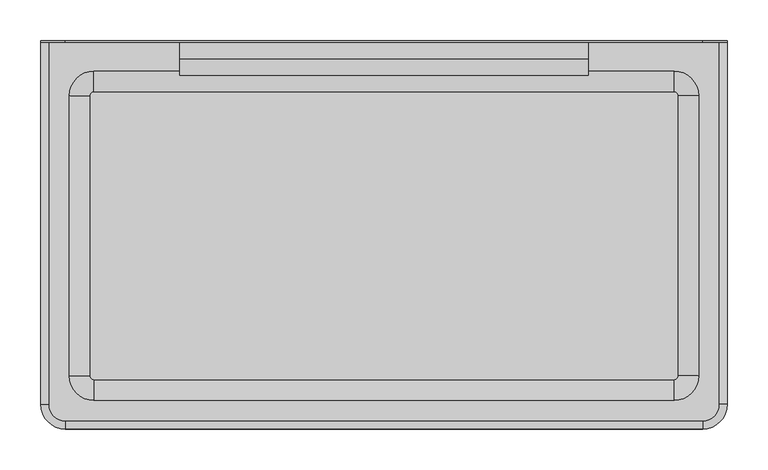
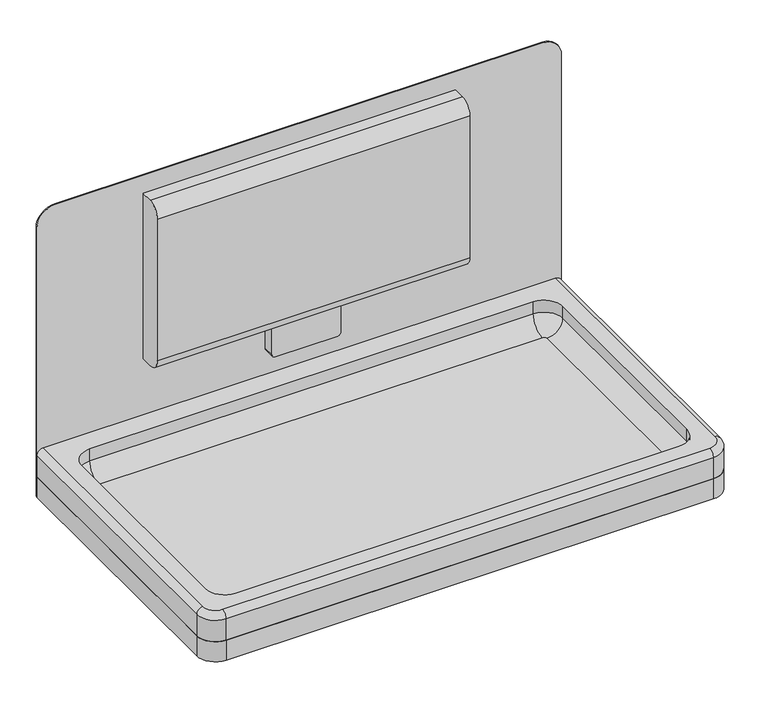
"""IFC4 building model written with IfcOpenShell, lengths in millimetres: proxy geometry, Baby Change Station_Metlam_Horizontal_Recessed : 940w x 495d x 585h (ML_8200REC)."""

import ifcopenshell
import ifcopenshell.guid

model = None  # the IFC model being written
_history = None  # IfcOwnerHistory: only IFC2X3 demands one
_inside = {}  # id of a spatial element -> (the spatial element, [elements in it])
_under = {}  # id of a project, library or spatial element -> (it, [spatial elements below it])
_declared = {}  # id of a project -> (the project, [libraries it declares])
_typed = {}  # id of a type object -> (the type object, [elements of that type])
_made_of = {}  # id of a material, layer set ... -> (it, [elements and type objects made of it])


def new_model(schema):
    """Start an empty IFC model of exactly this schema.

    Asked for "IFC4X3", IfcOpenShell would pick the latest addendum, in which some entities
    have other attributes; the version numbers below select the first issue.
    IFC2X3 requires an IfcOwnerHistory on every rooted entity: one is made here for all.
    """
    global model, _history
    if schema == "IFC4X3":
        model = ifcopenshell.file(schema_version=(4, 3, 0, 0))
    else:
        model = ifcopenshell.file(schema=schema)
    _inside.clear()
    _under.clear()
    _declared.clear()
    _typed.clear()
    _made_of.clear()
    _history = None
    if model.schema == "IFC2X3":
        org = make("IfcOrganization", Name="unknown")
        user = make(
            "IfcPersonAndOrganization",
            ThePerson=make("IfcPerson", FamilyName="unknown"),
            TheOrganization=org,
        )
        app = make(
            "IfcApplication",
            ApplicationDeveloper=org,
            Version="unknown",
            ApplicationFullName="unknown",
            ApplicationIdentifier="unknown",
        )
        _history = make(
            "IfcOwnerHistory",
            OwningUser=user,
            OwningApplication=app,
            ChangeAction="ADDED",
            CreationDate=0,
        )
    return model


def make(cls, **values):
    """One entity of the class cls with the attributes given. An attribute that is None is left unset."""
    return model.create_entity(
        cls, **{name: value for name, value in values.items() if value is not None}
    )


def rooted(cls, **values):
    """An entity with a GlobalId (a new one), such as an element, a storey or a relation."""
    return make(cls, GlobalId=ifcopenshell.guid.new(), OwnerHistory=_history, **values)


def si_unit(unit_type, name, prefix=None):
    """IfcSIUnit, for example si_unit("LENGTHUNIT", "METRE", prefix="MILLI")."""
    return make("IfcSIUnit", UnitType=unit_type, Prefix=prefix, Name=name)


def assignment(units):
    """IfcUnitAssignment: the units of a project."""
    return None if units is None else make("IfcUnitAssignment", Units=units)


def point(xyz):
    """IfcCartesianPoint."""
    return None if xyz is None else make("IfcCartesianPoint", Coordinates=xyz)


def direction(xyz):
    """IfcDirection."""
    return None if xyz is None else make("IfcDirection", DirectionRatios=xyz)


def frame(location, z_axis=None, x_axis=None):
    """IfcAxis2Placement3D, a coordinate frame: its origin and axes. An axis left out is left unset."""
    return make(
        "IfcAxis2Placement3D",
        Location=point(location),
        Axis=direction(z_axis),
        RefDirection=direction(x_axis),
    )


def frame_2d(location, x_axis=None):
    """IfcAxis2Placement2D, a coordinate frame in the plane: its origin and x axis."""
    return make(
        "IfcAxis2Placement2D", Location=point(location), RefDirection=direction(x_axis)
    )


def origin():
    """The frame at (0, 0, 0) with its axes left unset."""
    return frame((0.0, 0.0, 0.0))


def place(relative_to, where):
    """IfcLocalPlacement: puts the frame where relative to a parent placement (None: the world)."""
    return make(
        "IfcLocalPlacement", PlacementRelTo=relative_to, RelativePlacement=where
    )


def context(
    kind, dimensions, precision=None, world=None, true_north=None, identifier=None
):
    """IfcGeometricRepresentationContext, for example the 3D "Model" context."""
    return make(
        "IfcGeometricRepresentationContext",
        ContextIdentifier=identifier,
        ContextType=kind,
        CoordinateSpaceDimension=dimensions,
        Precision=precision,
        WorldCoordinateSystem=world,
        TrueNorth=true_north,
    )


def project(units=None, contexts=None):
    """IfcProject with its units and contexts."""
    return rooted(
        "IfcProject",
        Name="project",
        RepresentationContexts=contexts,
        UnitsInContext=assignment(units),
    )


def spatial(cls, under=None, at=None, **own):
    """A site, building, storey or space (cls), placed at a placement, below another one or the project."""
    s = rooted(cls, ObjectPlacement=at, **own)
    if under is not None:
        _under.setdefault(under.id(), (under, []))[1].append(s)
    return s


def polyline(points):
    """IfcPolyline through the points."""
    return make("IfcPolyline", Points=[point(p) for p in points])


def circle_curve(where, radius):
    """IfcCircle in the frame where."""
    return make("IfcCircle", Position=where, Radius=radius)


def ellipse_curve(where, semi_axis1, semi_axis2):
    """IfcEllipse in the frame where."""
    return make(
        "IfcEllipse", Position=where, SemiAxis1=semi_axis1, SemiAxis2=semi_axis2
    )


def trimmed(basis, trim1, trim2, sense, master):
    """IfcTrimmedCurve: the piece of a basis curve between two trims."""
    return make(
        "IfcTrimmedCurve",
        BasisCurve=basis,
        Trim1=trim1,
        Trim2=trim2,
        SenseAgreement=sense,
        MasterRepresentation=master,
    )


def segment(curve, same_sense, transition):
    """IfcCompositeCurveSegment."""
    return make(
        "IfcCompositeCurveSegment",
        Transition=transition,
        SameSense=same_sense,
        ParentCurve=curve,
    )


def composite_curve(segments, self_intersect=None):
    """IfcCompositeCurve: segments joined end to end."""
    return make("IfcCompositeCurve", Segments=segments, SelfIntersect=self_intersect)


def outline(outer, holes=None, kind="AREA"):
    """IfcArbitraryClosedProfileDef: a profile drawn as a closed curve; with holes, ...WithVoids."""
    if holes is None:
        return make("IfcArbitraryClosedProfileDef", ProfileType=kind, OuterCurve=outer)
    return make(
        "IfcArbitraryProfileDefWithVoids",
        ProfileType=kind,
        OuterCurve=outer,
        InnerCurves=holes,
    )


def extrude(swept, where, along, depth):
    """IfcExtrudedAreaSolid: the profile swept, set in the frame where, extruded along a direction by depth."""
    return make(
        "IfcExtrudedAreaSolid",
        SweptArea=swept,
        Position=where,
        ExtrudedDirection=direction(along),
        Depth=depth,
    )


def shape(context_of_items, identifier, shape_type, items):
    """IfcShapeRepresentation: the items that make up one representation, for example the "Body"."""
    return make(
        "IfcShapeRepresentation",
        ContextOfItems=context_of_items,
        RepresentationIdentifier=identifier,
        RepresentationType=shape_type,
        Items=items,
    )


def source(mapping_origin, context_of_items, identifier, shape_type, items):
    """IfcRepresentationMap: a shape defined once, which mapped items show again and again."""
    return make(
        "IfcRepresentationMap",
        MappingOrigin=mapping_origin,
        MappedRepresentation=shape(context_of_items, identifier, shape_type, items),
    )


def transform(
    local_origin,
    x_axis=None,
    y_axis=None,
    z_axis=None,
    scale=None,
    scale2=None,
    scale3=None,
    uniform=True,
):
    """IfcCartesianTransformationOperator3D, or its non-uniform kind. x_axis, y_axis, z_axis: its Axis1, 2, 3."""
    if uniform:
        return make(
            "IfcCartesianTransformationOperator3D",
            Axis1=direction(x_axis),
            Axis2=direction(y_axis),
            LocalOrigin=point(local_origin),
            Scale=scale,
            Axis3=direction(z_axis),
        )
    return make(
        "IfcCartesianTransformationOperator3DnonUniform",
        Axis1=direction(x_axis),
        Axis2=direction(y_axis),
        LocalOrigin=point(local_origin),
        Scale=scale,
        Axis3=direction(z_axis),
        Scale2=scale2,
        Scale3=scale3,
    )


def mapped(mapping_source, mapping_target):
    """IfcMappedItem: shows the shape of a source again, moved by a transform."""
    return make(
        "IfcMappedItem", MappingSource=mapping_source, MappingTarget=mapping_target
    )


def made_of(thing, what):
    """Note that an element or type object is made of a material, layer set ...; save() writes the relation."""
    if what is not None:
        _made_of.setdefault(what.id(), (what, []))[1].append(thing)
    return thing


def element(
    cls,
    number,
    at=None,
    inside=None,
    cuts=None,
    type_object=None,
    material=None,
    context=None,
    identifier="Body",
    shape_type=None,
    held_by="IfcProductDefinitionShape",
    body=None,
    shapes=None,
    **own,
):
    """One element of the class cls, such as IfcWall. Its Tag is "e" and its number.

    at: its placement. inside: the storey or other place that contains it. cuts: it is an
    opening in that element (IfcRelVoidsElement). A single representation is given by context,
    identifier, shape_type and body (its items); several are given by shapes. held_by: the class
    of the entity that holds the representations. save() writes the other relations.
    """
    e = rooted(cls, Tag="e%d" % number, ObjectPlacement=at, **own)
    if body is not None:
        shapes = [shape(context, identifier, shape_type, body)]
    if shapes is not None:
        e.Representation = make(held_by, Representations=shapes)
    if inside is not None:
        _inside.setdefault(inside.id(), (inside, []))[1].append(e)
    if cuts is not None:
        rooted(
            "IfcRelVoidsElement", RelatingBuildingElement=cuts, RelatedOpeningElement=e
        )
    if type_object is not None:
        _typed.setdefault(type_object.id(), (type_object, []))[1].append(e)
    return made_of(e, material)


def aggregate(whole, parts):
    """IfcRelAggregates: a whole, such as a stair, and the parts it consists of."""
    return rooted("IfcRelAggregates", RelatingObject=whole, RelatedObjects=parts)


def save(model, path):
    """Write the relations noted so far, then the file.

    IfcRelAggregates (storeys below a building ...), IfcRelContainedInSpatialStructure (elements
    in a storey), IfcRelDefinesByType, IfcRelAssociatesMaterial and IfcRelDeclares: one each for
    every whole, place, type object, material and project.
    """
    for whole, parts in _under.values():
        aggregate(whole, parts)
    for where, things in _inside.values():
        rooted(
            "IfcRelContainedInSpatialStructure",
            RelatedElements=things,
            RelatingStructure=where,
        )
    for kind, things in _typed.values():
        rooted("IfcRelDefinesByType", RelatedObjects=things, RelatingType=kind)
    for what, things in _made_of.values():
        rooted("IfcRelAssociatesMaterial", RelatedObjects=things, RelatingMaterial=what)
    for by, libraries in _declared.values():
        rooted("IfcRelDeclares", RelatingContext=by, RelatedDefinitions=libraries)
    model.write(path)


def plane_surface(at):
    """IfcPlane: the flat surface through the origin of the frame at, square to its z axis."""
    return make("IfcPlane", Position=at)


def cylinder_surface(at, radius):
    """IfcCylindricalSurface: all points at the distance radius from the z axis of the frame at."""
    return make("IfcCylindricalSurface", Position=at, Radius=radius)


def revolved_surface(curve, axis_point, axis_direction):
    """IfcSurfaceOfRevolution: the curve turned about the line through axis_point along axis_direction."""
    return make(
        "IfcSurfaceOfRevolution",
        SweptCurve=make("IfcArbitraryOpenProfileDef", ProfileType="CURVE", Curve=curve),
        AxisPosition=make("IfcAxis1Placement", Location=point(axis_point), Axis=direction(axis_direction)),
    )


def advanced_brep(points, edges, surfaces, faces):
    """IfcAdvancedBrep: a solid bounded by faces that lie on surfaces and meet in shared edges.

    An edge is (start, end): straight between two places in points (the first is 0);
    or (start, end, curve); or (start, end, curve, False) where it runs against its curve.
    A face is (place in surfaces, loops), or (place, loops, False) where it looks against
    its surface's normal. A loop lists edges by number (the first is 1), with a minus sign
    where the edge is run from its end to its start. The first loop is the outer one.
    """
    corners = [point(p) for p in points]
    vertices = [make("IfcVertexPoint", VertexGeometry=c) for c in corners]
    made = []
    for start, end, *more in edges:
        made.append(
            make(
                "IfcEdgeCurve",
                EdgeStart=vertices[start],
                EdgeEnd=vertices[end],
                EdgeGeometry=more[0] if more else make("IfcPolyline", Points=[corners[start], corners[end]]),
                SameSense=more[1] if len(more) > 1 else True,
            )
        )
    hull = []
    for where, loops, *sense in faces:
        bounds = []
        for j, loop in enumerate(loops):
            ring = [make("IfcOrientedEdge", EdgeElement=made[abs(k) - 1], Orientation=k > 0) for k in loop]
            bounds.append(
                make(
                    "IfcFaceOuterBound" if j == 0 else "IfcFaceBound",
                    Bound=make("IfcEdgeLoop", EdgeList=ring),
                    Orientation=True,
                )
            )
        hull.append(make("IfcAdvancedFace", Bounds=bounds, FaceSurface=surfaces[where], SameSense=sense[0] if sense else True))
    return make("IfcAdvancedBrep", Outer=make("IfcClosedShell", CfsFaces=hull))


def specialty_equipment_1827895f(model_context):
    return source(origin(), model_context, "Body", "SolidModel", [
        extrude(outline(composite_curve([segment(polyline([(1175.0, -420.0), (800.0, -420.0), (790.0, -420.0), (720.0, -420.0), (720.0, 420.0), (790.0, 420.0), (800.0, 420.0), (1175.0, 420.0)]), True, "CONTINUOUS"), segment(trimmed(circle_curve(frame_2d((1175.0, 390.0)), 30.0), [point((1175.0, 420.0))], [point((1205.0, 390.0))], False, "CARTESIAN"), True, "CONTINUOUS"), segment(polyline([(1205.0, 390.0), (1205.0, -390.0)]), True, "CONTINUOUS"), segment(trimmed(circle_curve(frame_2d((1175.0, -390.0)), 30.0), [point((1205.0, -390.0))], [point((1175.0, -420.0))], False, "CARTESIAN"), True, "CONTINUOUS")], self_intersect=False)), frame((0.0, 70.0, 0.0), z_axis=(0.0, 1.0, 0.0), x_axis=(0.0, 0.0, 1.0)), (0.0, 0.0, 1.0), 2.0),
        extrude(outline(composite_curve([segment(polyline([(420.0, 70.0), (420.0, -373.0)]), True, "CONTINUOUS"), segment(trimmed(circle_curve(frame_2d((390.0, -373.0)), 30.0), [point((420.0, -373.0))], [point((390.0, -403.0))], False, "CARTESIAN"), True, "CONTINUOUS"), segment(polyline([(390.0, -403.0), (-390.0, -403.0)]), True, "CONTINUOUS"), segment(trimmed(circle_curve(frame_2d((-390.0, -373.0)), 30.0), [point((-390.0, -403.0))], [point((-420.0, -373.0))], False, "CARTESIAN"), True, "CONTINUOUS"), segment(polyline([(-420.0, -373.0), (-420.0, 70.0), (420.0, 70.0)]), True, "CONTINUOUS")], self_intersect=False)), frame((0.0, 0.0, 720.0), z_axis=(0.0, 0.0, 1.0), x_axis=(1.0, 0.0, 0.0)), (0.0, 0.0, 1.0), 34.0),
        advanced_brep(
        [(250.0, 70.0, 1175.0), (250.0, 50.0, 1175.0), (250.0, 30.0, 1155.0), (250.0, 30.0, 915.0), (250.0, 50.0, 895.0), (250.0, 70.0, 895.0), (-250.0, 70.0, 1175.0), (-250.0, 70.0, 895.0), (-250.0, 50.0, 895.0), (-250.0, 30.0, 915.0), (-250.0, 30.0, 1155.0), (-250.0, 50.0, 1175.0), (-60.0, 50.0, 895.0), (60.0, 50.0, 895.0), (60.0, 70.0, 895.0), (-60.0, 70.0, 895.0), (55.0, 70.0, 890.0), (55.0, 70.0, 845.0), (50.0, 70.0, 840.0), (-50.0, 70.0, 840.0), (-55.0, 70.0, 845.0), (-55.0, 70.0, 890.0), (-55.0, 50.0, 890.0), (-55.0, 50.0, 845.0), (-50.0, 50.0, 840.0), (50.0, 50.0, 840.0), (55.0, 50.0, 845.0), (55.0, 50.0, 890.0)],
        [
            (0, 1),
            (1, 2, circle_curve(frame((250.0, 50.0, 1155.0), z_axis=(1.0, 0.0, 0.0), x_axis=(0.0, 1.0, 0.0)), 20.0)),
            (2, 3),
            (3, 4, circle_curve(frame((250.0, 50.0, 915.0), z_axis=(1.0, 0.0, 0.0), x_axis=(0.0, 1.0, 0.0)), 20.0)),
            (4, 5),
            (5, 0),
            (6, 7),
            (7, 8),
            (8, 9, circle_curve(frame((-250.0, 50.0, 915.0), z_axis=(-1.0, 0.0, 0.0), x_axis=(0.0, 1.0, 0.0)), 20.0)),
            (9, 10),
            (10, 11, circle_curve(frame((-250.0, 50.0, 1155.0), z_axis=(-1.0, 0.0, 0.0), x_axis=(0.0, 1.0, 0.0)), 20.0)),
            (11, 6),
            (0, 6),
            (11, 1),
            (10, 2),
            (9, 3),
            (8, 12),
            (12, 13),
            (13, 4),
            (13, 14),
            (14, 5),
            (7, 15),
            (15, 12),
            (14, 16, circle_curve(frame((60.0, 70.0, 890.0), z_axis=(0.0, -1.0, 0.0), x_axis=(1.0, 0.0, 0.0)), 5.0)),
            (16, 17),
            (17, 18, circle_curve(frame((50.0, 70.0, 845.0), z_axis=(0.0, 1.0, 0.0), x_axis=(1.0, 0.0, 0.0)), 5.0)),
            (18, 19),
            (19, 20, circle_curve(frame((-50.0, 70.0, 845.0), z_axis=(0.0, 1.0, 0.0), x_axis=(1.0, 0.0, 0.0)), 5.0)),
            (20, 21),
            (21, 15, circle_curve(frame((-60.0, 70.0, 890.0), z_axis=(0.0, -1.0, 0.0), x_axis=(1.0, 0.0, 0.0)), 5.0)),
            (12, 22, circle_curve(frame((-60.0, 50.0, 890.0), z_axis=(0.0, 1.0, 0.0), x_axis=(1.0, 0.0, 0.0)), 5.0)),
            (22, 23),
            (23, 24, circle_curve(frame((-50.0, 50.0, 845.0), z_axis=(0.0, -1.0, 0.0), x_axis=(1.0, 0.0, 0.0)), 5.0)),
            (24, 25),
            (25, 26, circle_curve(frame((50.0, 50.0, 845.0), z_axis=(0.0, -1.0, 0.0), x_axis=(1.0, 0.0, 0.0)), 5.0)),
            (26, 27),
            (27, 13, circle_curve(frame((60.0, 50.0, 890.0), z_axis=(0.0, 1.0, 0.0), x_axis=(1.0, 0.0, 0.0)), 5.0)),
            (22, 21),
            (20, 23),
            (24, 19),
            (18, 25),
            (26, 17),
            (16, 27),
        ],
        [
            plane_surface(frame((250.0, 70.0, 1175.0), z_axis=(1.0, 0.0, 0.0), x_axis=(0.0, -1.0, 0.0))),
            plane_surface(frame((-250.0, 70.0, 1175.0), z_axis=(-1.0, 0.0, 0.0), x_axis=(0.0, 1.0, 0.0))),
            plane_surface(frame((250.0, 70.0, 1175.0), z_axis=(0.0, 0.0, 1.0), x_axis=(-1.0, 0.0, 0.0))),
            cylinder_surface(frame((-250.0, 50.0, 1155.0), z_axis=(1.0, 0.0, 0.0), x_axis=(0.0, 1.0, 0.0)), 20.0),
            plane_surface(frame((250.0, 30.0, 1155.0), z_axis=(0.0, -1.0, 0.0), x_axis=(-1.0, 0.0, 0.0))),
            cylinder_surface(frame((-250.0, 50.0, 915.0), z_axis=(1.0, 0.0, 0.0), x_axis=(0.0, 1.0, 0.0)), 20.0),
            plane_surface(frame((250.0, 50.0, 895.0), z_axis=(0.0, 0.0, -1.0), x_axis=(-1.0, 0.0, 0.0))),
            plane_surface(frame((250.0, 70.0, 895.0), z_axis=(0.0, 1.0, 0.0), x_axis=(-1.0, 0.0, 0.0))),
            plane_surface(frame((0.0, 50.0, 895.0), z_axis=(0.0, -1.0, 0.0), x_axis=(-1.0, 0.0, 0.0))),
            plane_surface(frame((-55.0, 50.0, 890.0), z_axis=(-1.0, 0.0, 0.0), x_axis=(0.0, 1.0, 0.0))),
            plane_surface(frame((-50.0, 50.0, 840.0), z_axis=(0.0, 0.0, -1.0), x_axis=(0.0, 1.0, 0.0))),
            plane_surface(frame((55.0, 50.0, 845.0), z_axis=(1.0, 0.0, 0.0), x_axis=(0.0, 1.0, 0.0))),
            revolved_surface(polyline([(-55.0, 70.0, 890.0), (-55.0, 50.0, 890.0)]), (-60.0, 70.0, 890.0), (0.0, 1.0, 0.0)),
            revolved_surface(polyline([(65.0, 70.0, 890.0), (65.0, 50.0, 890.0)]), (60.0, 70.0, 890.0), (0.0, 1.0, 0.0)),
            cylinder_surface(frame((-50.0, 70.0, 845.0), z_axis=(0.0, -1.0, 0.0), x_axis=(1.0, 0.0, 0.0)), 5.0),
            cylinder_surface(frame((50.0, 70.0, 845.0), z_axis=(0.0, -1.0, 0.0), x_axis=(1.0, 0.0, 0.0)), 5.0),
        ],
        [
            (0, [[1, 2, 3, 4, 5, 6]]),
            (1, [[7, 8, 9, 10, 11, 12]]),
            (2, [[-1, 13, -12, 14]]),
            (3, [[-2, -14, -11, 15]]),
            (4, [[-3, -15, -10, 16]]),
            (5, [[-4, -16, -9, 17, 18, 19]]),
            (6, [[-5, -19, 20, 21]]),
            (6, [[-8, 22, 23, -17]]),
            (7, [[-6, -21, 24, 25, 26, 27, 28, 29, 30, -22, -7, -13]]),
            (8, [[31, 32, 33, 34, 35, 36, 37, -18]]),
            (9, [[-32, 38, -29, 39]]),
            (10, [[-34, 40, -27, 41]]),
            (11, [[-36, 42, -25, 43]]),
            (12, [[-31, -23, -30, -38]]),
            (13, [[-37, -43, -24, -20]]),
            (14, [[-33, -39, -28, -40]]),
            (15, [[-35, -41, -26, -42]]),
        ],
    ),
        advanced_brep(
        [(410.0, 70.0, 800.0), (-410.0, 70.0, 800.0), (-410.0, -373.0, 800.0), (-390.0, -393.0, 800.0), (390.0, -393.0, 800.0), (410.0, -373.0, 800.0), (385.0367705, -338.0, 800.0), (355.0, -368.0367705, 800.0), (-355.0, -368.0367705, 800.0), (-385.0367705, -338.0, 800.0), (-385.0367705, 5.0, 800.0), (-355.0, 35.0367705, 800.0), (355.0, 35.0367705, 800.0), (385.0367705, 5.0, 800.0), (420.0, 70.0, 754.0), (420.0, -373.0, 754.0), (390.0, -403.0, 754.0), (-390.0, -403.0, 754.0), (-420.0, -373.0, 754.0), (-420.0, 70.0, 754.0), (-420.0, 70.0, 790.0), (420.0, 70.0, 790.0), (-420.0, -373.0, 790.0), (390.0, -403.0, 790.0), (-390.0, -403.0, 790.0), (420.0, -373.0, 790.0), (385.0367705, -338.0, 780.0), (355.0, -368.0367705, 780.0), (360.0367705, -338.0, 755.0), (355.0, -343.0367705, 755.0), (385.0367705, 5.0, 780.0), (360.0367705, 5.0, 755.0), (355.0, 35.0367705, 780.0), (355.0, 10.0367705, 755.0), (-355.0, 35.0367705, 780.0), (-355.0, 10.0367705, 755.0), (-385.0367705, 5.0, 780.0), (-360.0367705, 5.0, 755.0), (-385.0367705, -338.0, 780.0), (-360.0367705, -338.0, 755.0), (-355.0, -368.0367705, 780.0), (-355.0, -343.0367705, 755.0)],
        [
            (0, 1),
            (1, 2),
            (2, 3, circle_curve(frame((-390.0, -373.0, 800.0), z_axis=(0.0, 0.0, 1.0), x_axis=(-1.0, 0.0, 0.0)), 20.0)),
            (3, 4),
            (4, 5, circle_curve(frame((390.0, -373.0, 800.0), z_axis=(0.0, 0.0, 1.0), x_axis=(0.0, -1.0, 0.0)), 20.0)),
            (5, 0),
            (6, 7, circle_curve(frame((355.0, -338.0, 800.0), z_axis=(0.0, 0.0, -1.0), x_axis=(0.0, -1.0, 0.0)), 30.0367705)),
            (7, 8),
            (8, 9, circle_curve(frame((-355.0, -338.0, 800.0), z_axis=(0.0, 0.0, -1.0), x_axis=(-1.0, 0.0, 0.0)), 30.0367705)),
            (9, 10),
            (10, 11, circle_curve(frame((-355.0, 5.0, 800.0), z_axis=(0.0, 0.0, -1.0), x_axis=(0.0, 1.0, 0.0)), 30.0367705)),
            (11, 12),
            (12, 13, circle_curve(frame((355.0, 5.0, 800.0), z_axis=(0.0, 0.0, -1.0), x_axis=(1.0, 0.0, 0.0)), 30.0367705)),
            (13, 6),
            (14, 15),
            (15, 16, circle_curve(frame((390.0, -373.0, 754.0), z_axis=(0.0, 0.0, -1.0), x_axis=(0.0, -1.0, 0.0)), 30.0)),
            (16, 17),
            (17, 18, circle_curve(frame((-390.0, -373.0, 754.0), z_axis=(0.0, 0.0, -1.0), x_axis=(0.0, -1.0, 0.0)), 30.0)),
            (18, 19),
            (19, 14),
            (19, 20),
            (20, 1, circle_curve(frame((-410.0, 70.0, 790.0), z_axis=(0.0, 1.0, 0.0), x_axis=(1.0, 0.0, 0.0)), 10.0)),
            (0, 21, circle_curve(frame((410.0, 70.0, 790.0), z_axis=(0.0, 1.0, 0.0), x_axis=(-1.0, 0.0, 0.0)), 10.0)),
            (21, 14),
            (18, 22),
            (22, 20),
            (16, 23),
            (23, 24),
            (24, 17),
            (21, 25),
            (25, 15),
            (24, 22, circle_curve(frame((-390.0, -373.0, 790.0), z_axis=(0.0, 0.0, -1.0), x_axis=(0.0, -1.0, 0.0)), 30.0)),
            (25, 23, circle_curve(frame((390.0, -373.0, 790.0), z_axis=(0.0, 0.0, -1.0), x_axis=(0.0, -1.0, 0.0)), 30.0)),
            (6, 26),
            (26, 27, circle_curve(frame((355.0, -338.0, 780.0), z_axis=(0.0, 0.0, -1.0), x_axis=(0.0, -1.0, 0.0)), 30.0367705)),
            (27, 7),
            (26, 28, circle_curve(frame((360.0367705, -338.0, 780.0), z_axis=(0.0, 1.0, 0.0), x_axis=(-1.0, 0.0, 0.0)), 25.0)),
            (28, 29, circle_curve(frame((355.0, -338.0, 755.0), z_axis=(0.0, 0.0, -1.0), x_axis=(0.0, -1.0, 0.0)), 5.0367705)),
            (29, 27, circle_curve(frame((355.0, -343.0367705, 780.0), z_axis=(-1.0, 0.0, 0.0), x_axis=(0.0, 1.0, 0.0)), 25.0)),
            (13, 30),
            (30, 26),
            (30, 31, circle_curve(frame((360.0367705, 5.0, 780.0), z_axis=(0.0, 1.0, 0.0), x_axis=(-1.0, 0.0, 0.0)), 25.0)),
            (31, 28),
            (12, 32),
            (32, 30, circle_curve(frame((355.0, 5.0, 780.0), z_axis=(0.0, 0.0, -1.0), x_axis=(1.0, 0.0, 0.0)), 30.0367705)),
            (32, 33, circle_curve(frame((355.0, 10.0367705, 780.0), z_axis=(-1.0, 0.0, 0.0), x_axis=(0.0, -1.0, 0.0)), 25.0)),
            (33, 31, circle_curve(frame((355.0, 5.0, 755.0), z_axis=(0.0, 0.0, -1.0), x_axis=(1.0, 0.0, 0.0)), 5.0367705)),
            (11, 34),
            (34, 32),
            (34, 35, circle_curve(frame((-355.0, 10.0367705, 780.0), z_axis=(-1.0, 0.0, 0.0), x_axis=(0.0, -1.0, 0.0)), 25.0)),
            (35, 33),
            (10, 36),
            (36, 34, circle_curve(frame((-355.0, 5.0, 780.0), z_axis=(0.0, 0.0, -1.0), x_axis=(0.0, 1.0, 0.0)), 30.0367705)),
            (36, 37, circle_curve(frame((-360.0367705, 5.0, 780.0), z_axis=(0.0, -1.0, 0.0), x_axis=(1.0, 0.0, 0.0)), 25.0)),
            (37, 35, circle_curve(frame((-355.0, 5.0, 755.0), z_axis=(0.0, 0.0, -1.0), x_axis=(0.0, 1.0, 0.0)), 5.0367705)),
            (9, 38),
            (38, 36),
            (38, 39, circle_curve(frame((-360.0367705, -338.0, 780.0), z_axis=(0.0, -1.0, 0.0), x_axis=(1.0, 0.0, 0.0)), 25.0)),
            (39, 37),
            (8, 40),
            (40, 38, circle_curve(frame((-355.0, -338.0, 780.0), z_axis=(0.0, 0.0, -1.0), x_axis=(-1.0, 0.0, 0.0)), 30.0367705)),
            (40, 41, circle_curve(frame((-355.0, -343.0367705, 780.0), z_axis=(1.0, 0.0, 0.0), x_axis=(0.0, 1.0, 0.0)), 25.0)),
            (41, 39, circle_curve(frame((-355.0, -338.0, 755.0), z_axis=(0.0, 0.0, -1.0), x_axis=(-1.0, 0.0, 0.0)), 5.0367705)),
            (27, 40),
            (29, 41),
            (22, 2, circle_curve(frame((-410.0, -373.0, 790.0), z_axis=(0.0, 1.0, 0.0), x_axis=(1.0, 0.0, 0.0)), 10.0)),
            (24, 3, circle_curve(frame((-390.0, -393.0, 790.0), z_axis=(-1.0, 0.0, 0.0), x_axis=(0.0, 1.0, 0.0)), 10.0)),
            (23, 4, circle_curve(frame((390.0, -393.0, 790.0), z_axis=(-1.0, 0.0, 0.0), x_axis=(0.0, 1.0, 0.0)), 10.0)),
            (25, 5, circle_curve(frame((410.0, -373.0, 790.0), z_axis=(0.0, -1.0, 0.0), x_axis=(-1.0, 0.0, 0.0)), 10.0)),
        ],
        [
            plane_surface(frame((-420.0, 70.0, 800.0), z_axis=(0.0, 0.0, 1.0), x_axis=(-1.0, 0.0, 0.0))),
            plane_surface(frame((-420.0, 70.0, 754.0), z_axis=(0.0, 0.0, -1.0), x_axis=(1.0, 0.0, 0.0))),
            plane_surface(frame((420.0, 70.0, 800.0), z_axis=(0.0, 1.0, 0.0), x_axis=(0.0, 0.0, -1.0))),
            plane_surface(frame((-420.0, 70.0, 800.0), z_axis=(-1.0, 0.0, 0.0), x_axis=(0.0, 0.0, -1.0))),
            plane_surface(frame((-390.0, -403.0, 800.0), z_axis=(0.0, -1.0, 0.0), x_axis=(0.0, 0.0, -1.0))),
            plane_surface(frame((420.0, -373.0, 800.0), z_axis=(1.0, 0.0, 0.0), x_axis=(0.0, 0.0, -1.0))),
            cylinder_surface(frame((-390.0, -373.0, 754.0), z_axis=(0.0, 0.0, 1.0), x_axis=(0.0, -1.0, 0.0)), 30.0),
            cylinder_surface(frame((390.0, -373.0, 754.0), z_axis=(0.0, 0.0, 1.0), x_axis=(0.0, -1.0, 0.0)), 30.0),
            revolved_surface(polyline([(355.0, -368.0367705, 800.0), (355.0, -368.0367705, 780.0)]), (355.0, -338.0, 720.0), (0.0, 0.0, 1.0)),
            revolved_surface(trimmed(ellipse_curve(frame((355.0, -343.0367705, 780.0), z_axis=(1.0, 0.0, 0.0), x_axis=(0.0, 1.0, 0.0)), 25.0, 25.0), [point((355.0, -368.0367705, 780.0))], [point((355.0, -343.0367705, 755.0))], True, "CARTESIAN"), (355.0, -338.0, 720.0), (0.0, 0.0, 1.0)),
            plane_surface(frame((385.0367705, -338.0, 780.0), z_axis=(-1.0, 0.0, 0.0), x_axis=(0.0, 1.0, 0.0))),
            revolved_surface(polyline([(335.0367705, -338.0, 780.0), (335.0367705, 5.0, 780.0)]), (360.0367705, -338.0, 780.0), (0.0, -1.0, 0.0)),
            revolved_surface(polyline([(385.0367705, 5.0, 800.0), (385.0367705, 5.0, 780.0)]), (355.0, 5.0, 720.0), (0.0, 0.0, 1.0)),
            revolved_surface(trimmed(ellipse_curve(frame((360.0367705, 5.0, 780.0), z_axis=(0.0, 1.0, 0.0), x_axis=(-1.0, 0.0, 0.0)), 25.0, 25.0), [point((385.0367705, 5.0, 780.0))], [point((360.0367705, 5.0, 755.0))], True, "CARTESIAN"), (355.0, 5.0, 720.0), (0.0, 0.0, 1.0)),
            plane_surface(frame((355.0, 35.0367705, 780.0), z_axis=(0.0, -1.0, 0.0), x_axis=(-1.0, 0.0, 0.0))),
            revolved_surface(polyline([(355.0, -14.9632295, 780.0), (-355.0, -14.9632295, 780.0)]), (355.0, 10.0367705, 780.0), (1.0, 0.0, 0.0)),
            revolved_surface(polyline([(-355.0, 35.0367705, 800.0), (-355.0, 35.0367705, 780.0)]), (-355.0, 5.0, 720.0), (0.0, 0.0, 1.0)),
            revolved_surface(trimmed(ellipse_curve(frame((-355.0, 10.0367705, 780.0), z_axis=(-1.0, 0.0, 0.0), x_axis=(0.0, -1.0, 0.0)), 25.0, 25.0), [point((-355.0, 35.0367705, 780.0))], [point((-355.0, 10.0367705, 755.0))], True, "CARTESIAN"), (-355.0, 5.0, 720.0), (0.0, 0.0, 1.0)),
            plane_surface(frame((-385.0367705, 5.0, 780.0), z_axis=(1.0, 0.0, 0.0), x_axis=(0.0, -1.0, 0.0))),
            revolved_surface(polyline([(-335.0367705, 5.0, 780.0), (-335.0367705, -338.0, 780.0)]), (-360.0367705, 5.0, 780.0), (0.0, 1.0, 0.0)),
            revolved_surface(polyline([(-385.0367705, -338.0, 800.0), (-385.0367705, -338.0, 780.0)]), (-355.0, -338.0, 720.0), (0.0, 0.0, 1.0)),
            revolved_surface(trimmed(ellipse_curve(frame((-360.0367705, -338.0, 780.0), z_axis=(0.0, -1.0, 0.0), x_axis=(1.0, 0.0, 0.0)), 25.0, 25.0), [point((-385.0367705, -338.0, 780.0))], [point((-360.0367705, -338.0, 755.0))], True, "CARTESIAN"), (-355.0, -338.0, 720.0), (0.0, 0.0, 1.0)),
            plane_surface(frame((-355.0, -368.0367705, 780.0), z_axis=(0.0, 1.0, 0.0), x_axis=(1.0, 0.0, 0.0))),
            revolved_surface(polyline([(-355.0, -318.0367705, 780.0), (355.0, -318.0367705, 780.0)]), (-355.0, -343.0367705, 780.0), (-1.0, 0.0, 0.0)),
            plane_surface(frame((-355.0, -343.0367705, 755.0), z_axis=(0.0, 0.0, 1.0), x_axis=(-1.0, 0.0, 0.0))),
            cylinder_surface(frame((-410.0, 70.0, 790.0), z_axis=(0.0, -1.0, 0.0), x_axis=(1.0, 0.0, 0.0)), 10.0),
            revolved_surface(trimmed(ellipse_curve(frame((-410.0, -373.0, 790.0), z_axis=(0.0, 1.0, 0.0), x_axis=(1.0, 0.0, 0.0)), 10.0, 10.0), [point((-420.0, -373.0, 790.0))], [point((-410.0, -373.0, 800.0))], True, "CARTESIAN"), (-390.0, -373.0, 800.0), (0.0, 0.0, 1.0)),
            cylinder_surface(frame((-390.0, -393.0, 790.0), z_axis=(1.0, 0.0, 0.0), x_axis=(0.0, 1.0, 0.0)), 10.0),
            revolved_surface(trimmed(ellipse_curve(frame((390.0, -393.0, 790.0), z_axis=(-1.0, 0.0, 0.0), x_axis=(0.0, 1.0, 0.0)), 10.0, 10.0), [point((390.0, -403.0, 790.0))], [point((390.0, -393.0, 800.0))], True, "CARTESIAN"), (390.0, -373.0, 800.0), (0.0, 0.0, 1.0)),
            cylinder_surface(frame((410.0, -373.0, 790.0), z_axis=(0.0, 1.0, 0.0), x_axis=(-1.0, 0.0, 0.0)), 10.0),
        ],
        [
            (0, [[1, 2, 3, 4, 5, 6], [7, 8, 9, 10, 11, 12, 13, 14]]),
            (1, [[15, 16, 17, 18, 19, 20]]),
            (2, [[-20, 21, 22, -1, 23, 24]]),
            (3, [[-19, 25, 26, -21]]),
            (4, [[-17, 27, 28, 29]]),
            (5, [[-15, -24, 30, 31]]),
            (6, [[-18, -29, 32, -25]]),
            (7, [[-16, -31, 33, -27]]),
            (8, [[34, 35, 36, -7]]),
            (9, [[-35, 37, 38, 39]]),
            (10, [[-34, -14, 40, 41]]),
            (11, [[-37, -41, 42, 43]]),
            (12, [[-40, -13, 44, 45]]),
            (13, [[-42, -45, 46, 47]]),
            (14, [[-44, -12, 48, 49]]),
            (15, [[-46, -49, 50, 51]]),
            (16, [[-48, -11, 52, 53]]),
            (17, [[-50, -53, 54, 55]]),
            (18, [[-52, -10, 56, 57]]),
            (19, [[-54, -57, 58, 59]]),
            (20, [[-56, -9, 60, 61]]),
            (21, [[-58, -61, 62, 63]]),
            (22, [[-36, 64, -60, -8]]),
            (23, [[-39, 65, -62, -64]]),
            (24, [[-38, -43, -47, -51, -55, -59, -63, -65]]),
            (25, [[66, -2, -22, -26]]),
            (26, [[-66, -32, 67, -3]]),
            (27, [[-67, -28, 68, -4]]),
            (28, [[-68, -33, 69, -5]]),
            (29, [[-69, -30, -23, -6]]),
        ],
    ),
    ])


if __name__ == "__main__":
    model = new_model("IFC4")
    model_context = context("Model", 3, world=origin())
    ifc_project = project(units=[si_unit("LENGTHUNIT", "METRE", prefix="MILLI")], contexts=[model_context])
    site = spatial("IfcSite", under=ifc_project)
    building = spatial("IfcBuilding", under=site)
    placement = place(None, origin())
    specialty_equipment_shape = specialty_equipment_1827895f(model_context)
    element("IfcBuildingElementProxy", 1, Name="Baby Change Station_Metlam_Horizontal_Recessed : 940w x 495d x 585h (ML_8200REC)", ObjectType="Baby Change Station_Metlam_Horizontal_Recessed : 940w x 495d x 585h (ML_8200REC)", at=placement, inside=building, context=model_context, shape_type="MappedRepresentation", body=[
        mapped(specialty_equipment_shape, transform((0.0, 0.0, 0.0), x_axis=(1.0, 0.0, 0.0), y_axis=(0.0, 1.0, 0.0), z_axis=(0.0, 0.0, 1.0))),
    ])
    save(model, "model.ifc")
